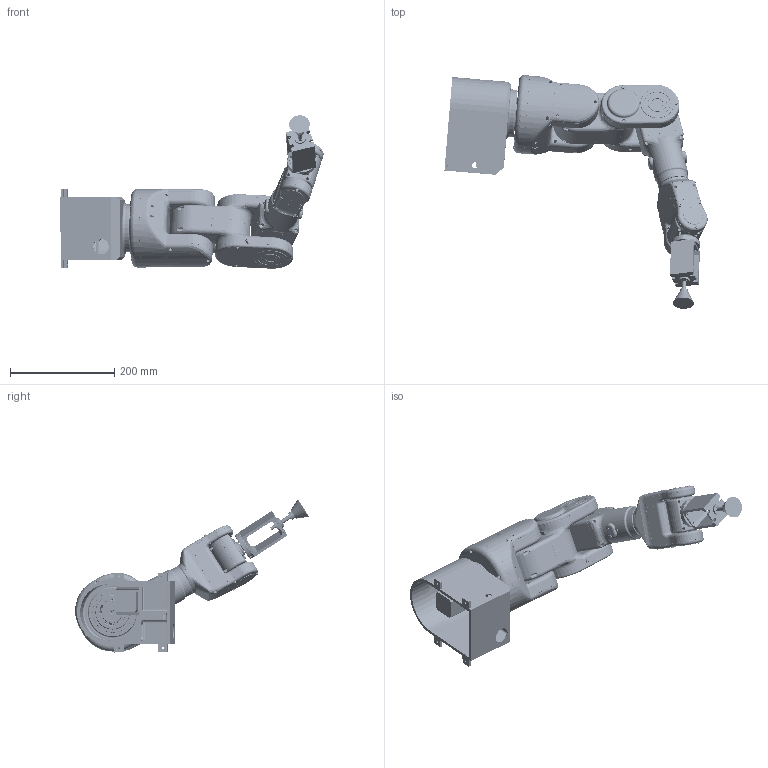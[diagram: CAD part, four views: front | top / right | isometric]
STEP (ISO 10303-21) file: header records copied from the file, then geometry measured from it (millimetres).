
FILE_DESCRIPTION(('Open CASCADE Model'),'2;1');
FILE_NAME('Open CASCADE Shape Model','2026-11-21T10:18:12',('Author'),( 'Open CASCADE'),'Open CASCADE STEP processor 8.0','Open CASCADE 8.0' ,'Unknown');
FILE_SCHEMA(('AUTOMOTIVE_DESIGN { 1 0 10303 214 1 1 1 1 }'));
Length unit declared in the file: millimetre
Products named in the file (195): AX-1_10; AX-1_11_sua; AX-1_2; AX-1_3_cang_dai_giua_nhanh_J2; AX-1_4; AX-1_6; AX-1_7; AX-1_8; AX-2_1_cang_dai_J3; AX-2_2_sua; AX-2_3; SOLID; AX-2_4; AX-2_5_mat_bich_J2; AX-3_1; AX-3_2_mat_bich_J3; AX-3_3; AX-3_4; AX-4_1; AX-4_2; AX-4_3; AX-4_4_rut_ngan; AX-4_5; AX-4_6; AX-5_1; AX-5_2; AX-6; ISK_M3x10; ISK_M3x20; ISK_M4x16_DIN912_M4x16; ISK_M5x35_DIN912_J3; ISK_M5x35_DIN912_J2; ISK_M5x25_DIN912_M5x25; Lager_19x5x6; Lager_32x15x9; Lager_32x20x7; Lager_52x40x7; Lager_65x50x7; Lager_78x60x10; Mutter_M3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
Assembly tree (1 placements, depth 2):
  AX-1_10
  AX-1_11_sua
  AX-1_2
  AX-1_3_cang_dai_giua_nhanh_J2
  AX-1_4
Bounding box: 504.9 x 448.81 x 294.31 mm (x, y, z)
Volume: 2215841 mm3; surface area: 1120949.7 mm2
Topology: 200 solids, 204 shells, 11967 faces, 27623 edges, 16263 vertices
Faces by surface type: cylinder 4833, plane 3173, torus 2270, bspline 934, cone 585, sphere 161, revolution 11
Full cylindrical faces by diameter (mm): 2.125 x12, 2.35 x28, 2.5 x24, 2.85 x8, 3 x36, 3.4 x4, 3.5 x8, 4.4 x6, 4.5 x4, 5 x4, 5.5 x2, 6 x5, 8 x1, 10 x2, 11 x2, 12 x3, 12.4 x1, 15 x1, 20 x1, 21 x2, 22 x3, 23 x2, 27 x1, 34 x1, 35.9 x3, 44 x1, 45 x1, 50 x3, 55 x2, 60 x1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
Entity records: 1027123 total; most frequent: CARTESIAN_POINT 486771, DIRECTION 98830, ORIENTED_EDGE 54840, PCURVE 54840, DEFINITIONAL_REPRESENTATION 54840, LINE 51413, VECTOR 51413, EDGE_CURVE 27420
